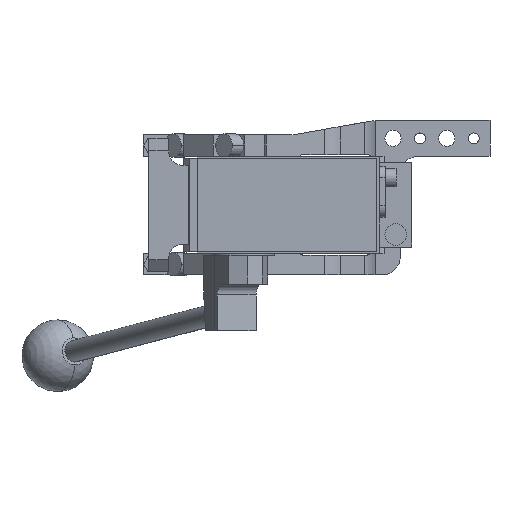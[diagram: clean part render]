
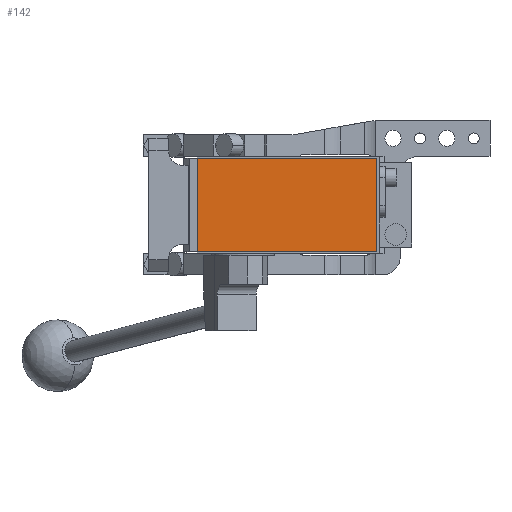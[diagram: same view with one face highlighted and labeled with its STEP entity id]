
A CAD part, front view. The second image highlights one B-rep face of the part: STEP entity #142.
In plain terms, the highlighted planar face has unit normal (0, -1, 0).
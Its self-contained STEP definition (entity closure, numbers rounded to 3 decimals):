
#142 = ADVANCED_FACE ( 'NONE', ( #622 ), #6767, .T. ) ;
#622 = FACE_OUTER_BOUND ( 'NONE', #11267, .T. ) ;
#1388 = VERTEX_POINT ( 'NONE', #10215 ) ;
#1463 = LINE ( 'NONE', #8838, #6143 ) ;
#2499 = EDGE_CURVE ( 'NONE', #1388, #4191, #10017, .T. ) ;
#3508 = CARTESIAN_POINT ( 'NONE',  ( 81., -286.5, -26. ) ) ;
#4191 = VERTEX_POINT ( 'NONE', #3508 ) ;
#4924 = VERTEX_POINT ( 'NONE', #8380 ) ;
#5469 = CARTESIAN_POINT ( 'NONE',  ( 0., -286.5, 0. ) ) ;
#5886 = VECTOR ( 'NONE', #12313, 1000. ) ;
#6143 = VECTOR ( 'NONE', #11555, 1000. ) ;
#6761 = CARTESIAN_POINT ( 'NONE',  ( -19., -286.5, 26. ) ) ;
#6767 = PLANE ( 'NONE',  #9522 ) ;
#6846 = EDGE_CURVE ( 'NONE', #4924, #7543, #14315, .T. ) ;
#6926 = DIRECTION ( 'NONE',  ( 0., -1., 0. ) ) ;
#7147 = EDGE_CURVE ( 'NONE', #7543, #1388, #1463, .T. ) ;
#7543 = VERTEX_POINT ( 'NONE', #6761 ) ;
#7957 = CARTESIAN_POINT ( 'NONE',  ( -19., -286.5, 26. ) ) ;
#8380 = CARTESIAN_POINT ( 'NONE',  ( 81., -286.5, 26. ) ) ;
#8776 = CARTESIAN_POINT ( 'NONE',  ( -19., -286.5, -26. ) ) ;
#8838 = CARTESIAN_POINT ( 'NONE',  ( -19., -286.5, 26. ) ) ;
#8877 = ORIENTED_EDGE ( 'NONE', *, *, #2499, .T. ) ;
#9522 = AXIS2_PLACEMENT_3D ( 'NONE', #5469, #6926, #13010 ) ;
#9780 = CARTESIAN_POINT ( 'NONE',  ( 81., -286.5, 26. ) ) ;
#10017 = LINE ( 'NONE', #8776, #5886 ) ;
#10215 = CARTESIAN_POINT ( 'NONE',  ( -19., -286.5, -26. ) ) ;
#11267 = EDGE_LOOP ( 'NONE', ( #15323, #8877, #11473, #11701 ) ) ;
#11473 = ORIENTED_EDGE ( 'NONE', *, *, #16131, .T. ) ;
#11555 = DIRECTION ( 'NONE',  ( 0., 0., -1. ) ) ;
#11701 = ORIENTED_EDGE ( 'NONE', *, *, #6846, .T. ) ;
#11932 = VECTOR ( 'NONE', #14829, 1000. ) ;
#12313 = DIRECTION ( 'NONE',  ( 1., 0., 0. ) ) ;
#13010 = DIRECTION ( 'NONE',  ( 0., 0., -1. ) ) ;
#14063 = DIRECTION ( 'NONE',  ( -1., 0., 0. ) ) ;
#14315 = LINE ( 'NONE', #7957, #16233 ) ;
#14829 = DIRECTION ( 'NONE',  ( 0., 0., 1. ) ) ;
#15323 = ORIENTED_EDGE ( 'NONE', *, *, #7147, .T. ) ;
#15887 = LINE ( 'NONE', #9780, #11932 ) ;
#16131 = EDGE_CURVE ( 'NONE', #4191, #4924, #15887, .T. ) ;
#16233 = VECTOR ( 'NONE', #14063, 1000. ) ;
